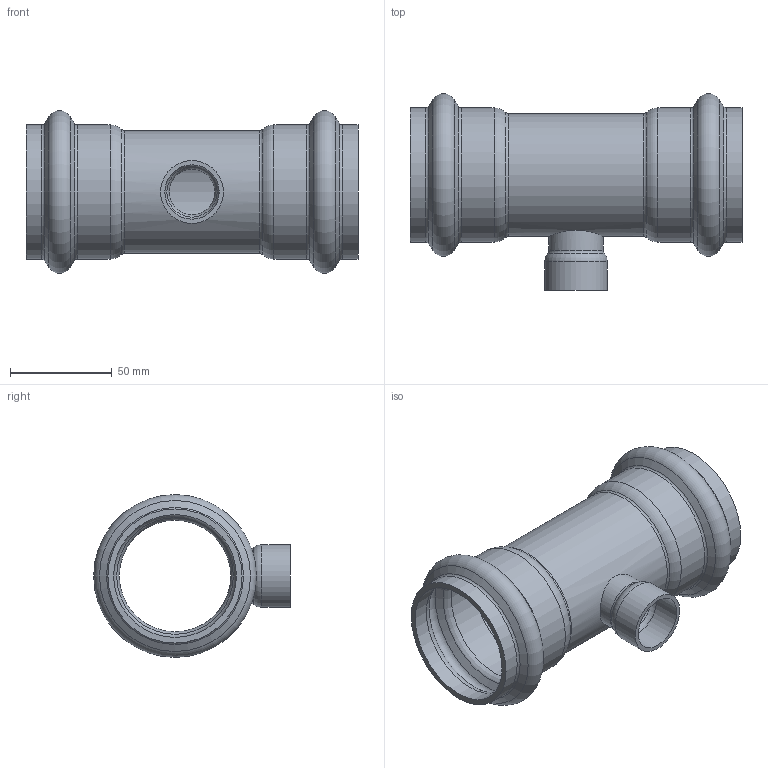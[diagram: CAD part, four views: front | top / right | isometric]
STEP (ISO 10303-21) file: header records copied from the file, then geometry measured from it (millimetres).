
FILE_DESCRIPTION(/* description */ ('VIC TEE RED. BRANCH STYLE P588 (P x P x F)','CAx-IF Rec.Pracs.---Representation and Presentation of Product Manufacturing Information (PMI)---4.0---2014-10-13'),/* implementation_level */ '2;1');
FILE_NAME(/* name */ 'C:\Users\Vjadhav\AppData\Roaming\Autodesk\ApplicationPlugins\Back Up\Victaulic_SS-Vic-Press-TP 304_Tee Threaded_Style P588 (VPxFPT)\Victaulic_SS-Vic-Press-TP 304_Tee Threaded_Style P588 (VPxFPT)_02.0x0.75 (50x20).stp',/* time_stamp */ '2020-08-12T18:49:55+05:00',/* author */ ('cgray'),/* organization */ ('Victaulic'),/* preprocessor_version */ 'ST-DEVELOPER v17.2',/* originating_system */ 'Autodesk Inventor 2019',/* authorisation */ '');
FILE_SCHEMA (('AP242_MANAGED_MODEL_BASED_3D_ENGINEERING_MIM_LF { 1 0 10303 442 1 1 4 }'));
Length unit declared in the file: inch
Products named in the file (1): P588-02.0x0.75
Bounding box: 163.07 x 96.61 x 79.93 mm (x, y, z)
Volume: 100702.1 mm3; surface area: 75221 mm2
Topology: 1 solids, 1 shells, 49 faces, 184 edges, 136 vertices
Faces by surface type: torus 24, cylinder 14, cone 8, plane 3
Full cylindrical faces by diameter (mm): 22.454 x1, 26.67 x2, 30.886 x1, 54.788 x1, 60.325 x5, 65.862 x4
Entity records: 2371 total; most frequent: CARTESIAN_POINT 475, DIRECTION 454, ORIENTED_EDGE 368, AXIS2_PLACEMENT_3D 215, EDGE_CURVE 184, CIRCLE 152, VERTEX_POINT 136, EDGE_LOOP 52
